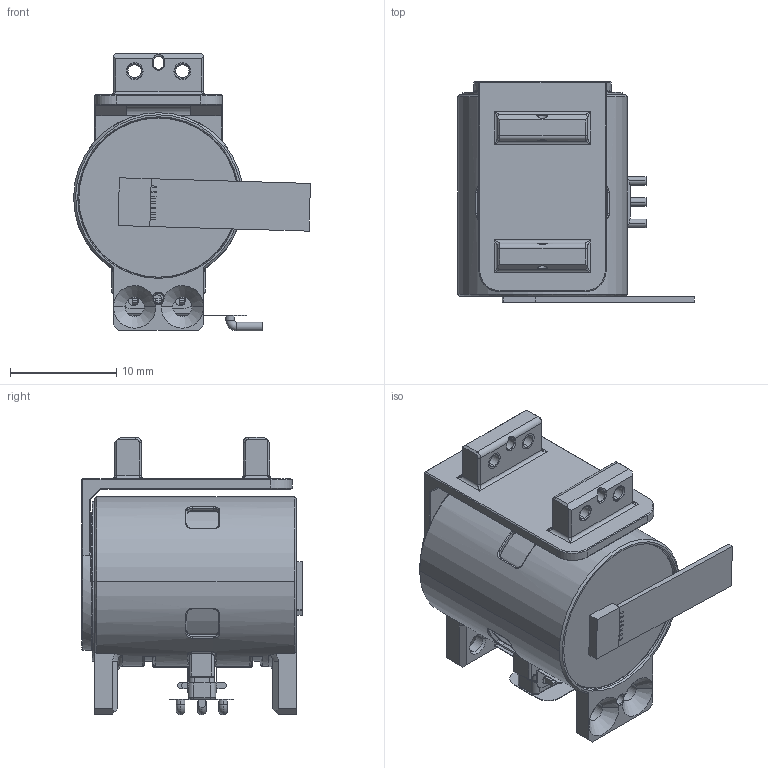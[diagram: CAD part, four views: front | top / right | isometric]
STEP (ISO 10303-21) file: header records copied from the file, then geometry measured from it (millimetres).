
FILE_DESCRIPTION((''),'2;1');
FILE_NAME('X16L-UM50-MH-1_ASM','2026-01-29T17:54:35',('wenbo'),(''),'CREO PARAMETRIC BY PTC INC, 2024325','CREO PARAMETRIC BY PTC INC, 2024325','');
FILE_SCHEMA(('CONFIG_CONTROL_DESIGN'));
Length unit declared in the file: millimetre
Products named in the file (20): 083000000001_36LAYER_66_1_1_1; ZUZHUANG_ASM_3_ASM_1_ASM_1_ASM__ASM; YUANZHU1_1_1_1; 025000000002_AF0_1_1_1_1_2_1_1_; 025300000001_1_1_1_1_2_1_1_1_1_; 025000000001_ASM_1_1_ASM_1_1__1_ASM; JIECHAZUO_ASM_2_ASM_1_ASM_1_ASM; BANJINFPC2_6_1_1; FPCBANJIN_16_1_1; DIANXIAN_3_1_1; YUANZHU_4_1_1; ZUZHUANG_ASM_ASM_1_ASM_1_ASM_1_ASM; 16MML_ASM_1_ASM_1_ASM; PCB_1; 1_1; CHANGTIAO_1; 16MML_ASM_1_ASM; 094200000009; XIAO_1_1; X16L-UM50-MH-1_ASM
Assembly tree (31 placements, depth 7):
  X16L-UM50-MH-1_ASM
    16MML_ASM_1_ASM
      16MML_ASM_1_ASM_1_ASM
        ZUZHUANG_ASM_ASM_1_ASM_1_ASM_1_ASM
          ZUZHUANG_ASM_3_ASM_1_ASM_1_ASM__ASM
            083000000001_36LAYER_66_1_1_1
          YUANZHU1_1_1_1
          JIECHAZUO_ASM_2_ASM_1_ASM_1_ASM
            025000000001_ASM_1_1_ASM_1_1__1_ASM
              025000000002_AF0_1_1_1_1_2_1_1_
              025300000001_1_1_1_1_2_1_1_1_1_  x3
          BANJINFPC2_6_1_1
          FPCBANJIN_16_1_1  x2
          DIANXIAN_3_1_1  x3
          YUANZHU_4_1_1
      PCB_1
      1_1
      CHANGTIAO_1
    094200000009
    XIAO_1_1  x8
Bounding box: 22.31 x 20.75 x 26.15 mm (x, y, z)
Volume: 3772.2 mm3; surface area: 5818.3 mm2
Topology: 25 solids, 29 shells, 887 faces, 2277 edges, 1429 vertices
Faces by surface type: plane 325, cylinder 294, torus 102, cone 98, bspline 64, sphere 4
Entity records: 27661 total; most frequent: CARTESIAN_POINT 8390, DIRECTION 4146, ORIENTED_EDGE 3906, EDGE_CURVE 1961, AXIS2_PLACEMENT_3D 1619, VERTEX_POINT 1237, VECTOR 908, LINE 908
